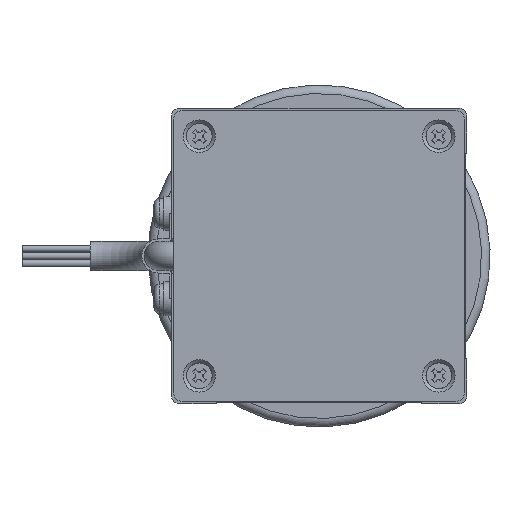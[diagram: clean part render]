
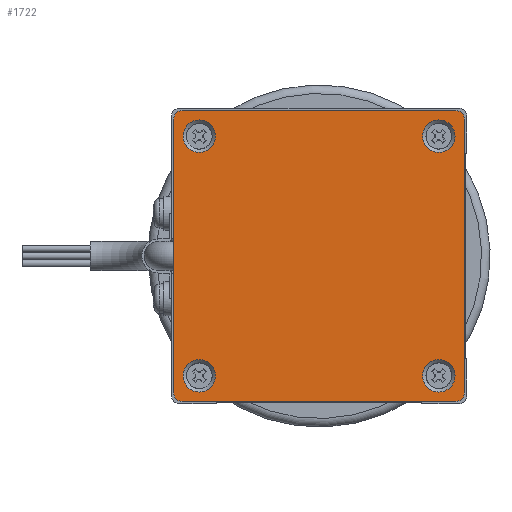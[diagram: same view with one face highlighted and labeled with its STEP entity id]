
A CAD part, front view. The second image highlights one B-rep face of the part: STEP entity #1722.
In plain terms, the highlighted planar face has unit normal (0, -1, 0).
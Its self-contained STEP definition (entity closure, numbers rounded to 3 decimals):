
#276 = EDGE_LOOP ( 'NONE', ( #4318 ) ) ;
#293 = DIRECTION ( 'NONE',  ( 0., 0., 1. ) ) ;
#574 = ORIENTED_EDGE ( 'NONE', *, *, #12337, .T. ) ;
#719 = CIRCLE ( 'NONE', #12659, 1. ) ;
#743 = CARTESIAN_POINT ( 'NONE',  ( -17., -34., -16. ) ) ;
#891 = CARTESIAN_POINT ( 'NONE',  ( -16., -34., -17. ) ) ;
#899 = EDGE_CURVE ( 'NONE', #3450, #8475, #11991, .T. ) ;
#954 = DIRECTION ( 'NONE',  ( 0., -1., 0. ) ) ;
#1193 = DIRECTION ( 'NONE',  ( 0., 1., 0. ) ) ;
#1209 = DIRECTION ( 'NONE',  ( -1., 0., 0. ) ) ;
#1216 = CARTESIAN_POINT ( 'NONE',  ( -16., -34., -16. ) ) ;
#1298 = DIRECTION ( 'NONE',  ( 1., 0., 0. ) ) ;
#1722 = ADVANCED_FACE ( 'NONE', ( #8264, #9030, #14528, #5072, #7703 ), #4458, .F. ) ;
#1729 = EDGE_CURVE ( 'NONE', #13554, #13554, #4899, .T. ) ;
#1797 = CARTESIAN_POINT ( 'NONE',  ( -15.9, -34., 14. ) ) ;
#1833 = DIRECTION ( 'NONE',  ( -1., 0., 0. ) ) ;
#1854 = VERTEX_POINT ( 'NONE', #13752 ) ;
#1856 = ORIENTED_EDGE ( 'NONE', *, *, #4175, .F. ) ;
#2025 = EDGE_LOOP ( 'NONE', ( #6895 ) ) ;
#2278 = DIRECTION ( 'NONE',  ( -1., 0., 0. ) ) ;
#2299 = VECTOR ( 'NONE', #293, 1000. ) ;
#2583 = AXIS2_PLACEMENT_3D ( 'NONE', #12023, #9702, #1209 ) ;
#2754 = EDGE_CURVE ( 'NONE', #3450, #11547, #4306, .T. ) ;
#3133 = VERTEX_POINT ( 'NONE', #743 ) ;
#3276 = DIRECTION ( 'NONE',  ( -1., 0., 0. ) ) ;
#3450 = VERTEX_POINT ( 'NONE', #12453 ) ;
#3489 = DIRECTION ( 'NONE',  ( 0., -1., 0. ) ) ;
#4078 = AXIS2_PLACEMENT_3D ( 'NONE', #10695, #3489, #2278 ) ;
#4154 = AXIS2_PLACEMENT_3D ( 'NONE', #11797, #14040, #11743 ) ;
#4175 = EDGE_CURVE ( 'NONE', #3133, #11547, #10843, .T. ) ;
#4306 = CIRCLE ( 'NONE', #7085, 1. ) ;
#4318 = ORIENTED_EDGE ( 'NONE', *, *, #5480, .F. ) ;
#4350 = CARTESIAN_POINT ( 'NONE',  ( 14., -34., -14. ) ) ;
#4427 = LINE ( 'NONE', #7719, #15152 ) ;
#4458 = PLANE ( 'NONE',  #9196 ) ;
#4629 = VERTEX_POINT ( 'NONE', #8665 ) ;
#4899 = CIRCLE ( 'NONE', #4078, 1.9 ) ;
#4983 = EDGE_CURVE ( 'NONE', #6036, #6647, #8239, .T. ) ;
#5067 = VERTEX_POINT ( 'NONE', #7164 ) ;
#5072 = FACE_BOUND ( 'NONE', #276, .T. ) ;
#5480 = EDGE_CURVE ( 'NONE', #1854, #1854, #14729, .T. ) ;
#5498 = DIRECTION ( 'NONE',  ( 0., -1., 0. ) ) ;
#5893 = DIRECTION ( 'NONE',  ( 1., 0., 0. ) ) ;
#6036 = VERTEX_POINT ( 'NONE', #7749 ) ;
#6647 = VERTEX_POINT ( 'NONE', #891 ) ;
#6748 = AXIS2_PLACEMENT_3D ( 'NONE', #7760, #5498, #1833 ) ;
#6895 = ORIENTED_EDGE ( 'NONE', *, *, #1729, .F. ) ;
#6987 = AXIS2_PLACEMENT_3D ( 'NONE', #1216, #14315, #7224 ) ;
#7073 = ORIENTED_EDGE ( 'NONE', *, *, #12764, .T. ) ;
#7085 = AXIS2_PLACEMENT_3D ( 'NONE', #14552, #9841, #1298 ) ;
#7151 = EDGE_CURVE ( 'NONE', #5067, #8475, #10096, .T. ) ;
#7164 = CARTESIAN_POINT ( 'NONE',  ( 17., -34., 16. ) ) ;
#7224 = DIRECTION ( 'NONE',  ( 1., 0., 0. ) ) ;
#7497 = CARTESIAN_POINT ( 'NONE',  ( -17., -34., 17. ) ) ;
#7618 = VERTEX_POINT ( 'NONE', #13037 ) ;
#7703 = FACE_OUTER_BOUND ( 'NONE', #11089, .T. ) ;
#7719 = CARTESIAN_POINT ( 'NONE',  ( 17., -34., 17. ) ) ;
#7749 = CARTESIAN_POINT ( 'NONE',  ( 16., -34., -17. ) ) ;
#7760 = CARTESIAN_POINT ( 'NONE',  ( 14., -34., 14. ) ) ;
#8193 = CARTESIAN_POINT ( 'NONE',  ( -17., -34., 16. ) ) ;
#8239 = LINE ( 'NONE', #12877, #14875 ) ;
#8264 = FACE_BOUND ( 'NONE', #10027, .T. ) ;
#8475 = VERTEX_POINT ( 'NONE', #14021 ) ;
#8665 = CARTESIAN_POINT ( 'NONE',  ( 17., -34., -16. ) ) ;
#8799 = ORIENTED_EDGE ( 'NONE', *, *, #4983, .F. ) ;
#8858 = AXIS2_PLACEMENT_3D ( 'NONE', #4350, #954, #3276 ) ;
#8893 = EDGE_CURVE ( 'NONE', #11543, #11543, #14210, .T. ) ;
#9030 = FACE_BOUND ( 'NONE', #2025, .T. ) ;
#9196 = AXIS2_PLACEMENT_3D ( 'NONE', #15105, #1193, #15218 ) ;
#9269 = EDGE_LOOP ( 'NONE', ( #14927 ) ) ;
#9528 = DIRECTION ( 'NONE',  ( 0., -1., 0. ) ) ;
#9702 = DIRECTION ( 'NONE',  ( 0., -1., 0. ) ) ;
#9738 = CARTESIAN_POINT ( 'NONE',  ( -17., -34., 17. ) ) ;
#9827 = ORIENTED_EDGE ( 'NONE', *, *, #7151, .T. ) ;
#9841 = DIRECTION ( 'NONE',  ( 0., -1., 0. ) ) ;
#9923 = EDGE_CURVE ( 'NONE', #7618, #7618, #15387, .T. ) ;
#10027 = EDGE_LOOP ( 'NONE', ( #11065 ) ) ;
#10096 = CIRCLE ( 'NONE', #4154, 1. ) ;
#10460 = ORIENTED_EDGE ( 'NONE', *, *, #10704, .F. ) ;
#10695 = CARTESIAN_POINT ( 'NONE',  ( -14., -34., 14. ) ) ;
#10704 = EDGE_CURVE ( 'NONE', #5067, #4629, #4427, .T. ) ;
#10706 = DIRECTION ( 'NONE',  ( -1., 0., 0. ) ) ;
#10843 = LINE ( 'NONE', #9738, #2299 ) ;
#11065 = ORIENTED_EDGE ( 'NONE', *, *, #9923, .F. ) ;
#11089 = EDGE_LOOP ( 'NONE', ( #8799, #574, #10460, #9827, #11425, #12424, #1856, #7073 ) ) ;
#11425 = ORIENTED_EDGE ( 'NONE', *, *, #899, .F. ) ;
#11543 = VERTEX_POINT ( 'NONE', #15025 ) ;
#11547 = VERTEX_POINT ( 'NONE', #8193 ) ;
#11743 = DIRECTION ( 'NONE',  ( 1., 0., 0. ) ) ;
#11797 = CARTESIAN_POINT ( 'NONE',  ( 16., -34., 16. ) ) ;
#11991 = LINE ( 'NONE', #7497, #12524 ) ;
#12023 = CARTESIAN_POINT ( 'NONE',  ( -14., -34., -14. ) ) ;
#12239 = DIRECTION ( 'NONE',  ( 1., 0., 0. ) ) ;
#12337 = EDGE_CURVE ( 'NONE', #6036, #4629, #719, .T. ) ;
#12424 = ORIENTED_EDGE ( 'NONE', *, *, #2754, .T. ) ;
#12453 = CARTESIAN_POINT ( 'NONE',  ( -16., -34., 17. ) ) ;
#12524 = VECTOR ( 'NONE', #12239, 1000. ) ;
#12659 = AXIS2_PLACEMENT_3D ( 'NONE', #15200, #9528, #5893 ) ;
#12764 = EDGE_CURVE ( 'NONE', #3133, #6647, #15174, .T. ) ;
#12877 = CARTESIAN_POINT ( 'NONE',  ( -17., -34., -17. ) ) ;
#13037 = CARTESIAN_POINT ( 'NONE',  ( -15.9, -34., -14. ) ) ;
#13554 = VERTEX_POINT ( 'NONE', #1797 ) ;
#13602 = DIRECTION ( 'NONE',  ( 0., 0., -1. ) ) ;
#13752 = CARTESIAN_POINT ( 'NONE',  ( 12.1, -34., -14. ) ) ;
#14021 = CARTESIAN_POINT ( 'NONE',  ( 16., -34., 17. ) ) ;
#14040 = DIRECTION ( 'NONE',  ( 0., -1., 0. ) ) ;
#14210 = CIRCLE ( 'NONE', #6748, 1.9 ) ;
#14315 = DIRECTION ( 'NONE',  ( 0., -1., 0. ) ) ;
#14528 = FACE_BOUND ( 'NONE', #9269, .T. ) ;
#14552 = CARTESIAN_POINT ( 'NONE',  ( -16., -34., 16. ) ) ;
#14729 = CIRCLE ( 'NONE', #8858, 1.9 ) ;
#14875 = VECTOR ( 'NONE', #10706, 1000. ) ;
#14927 = ORIENTED_EDGE ( 'NONE', *, *, #8893, .F. ) ;
#15025 = CARTESIAN_POINT ( 'NONE',  ( 12.1, -34., 14. ) ) ;
#15105 = CARTESIAN_POINT ( 'NONE',  ( 17., -34., 17. ) ) ;
#15152 = VECTOR ( 'NONE', #13602, 1000. ) ;
#15174 = CIRCLE ( 'NONE', #6987, 1. ) ;
#15200 = CARTESIAN_POINT ( 'NONE',  ( 16., -34., -16. ) ) ;
#15218 = DIRECTION ( 'NONE',  ( 1., 0., 0. ) ) ;
#15387 = CIRCLE ( 'NONE', #2583, 1.9 ) ;
